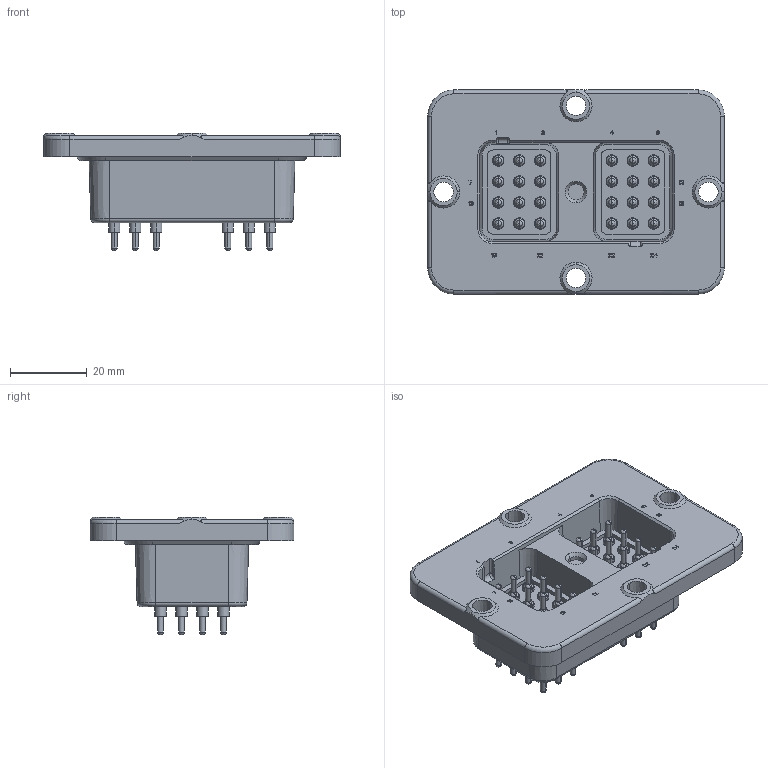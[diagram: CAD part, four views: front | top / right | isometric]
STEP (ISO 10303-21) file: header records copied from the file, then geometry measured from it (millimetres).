
FILE_DESCRIPTION((''),'2;1');
FILE_NAME('C-DRC10-24PA-A004','2013-06-01T',('workeradm'),('Tyco Electronics Ltd.'),'PRO/ENGINEER BY PARAMETRIC TECHNOLOGY CORPORATION, 2011490','PRO/ENGINEER BY PARAMETRIC TECHNOLOGY CORPORATION, 2011490','');
FILE_SCHEMA(('AUTOMOTIVE_DESIGN { 1 0 10303 214 1 1 1 1 }'));
Length unit declared in the file: millimetre
Products named in the file (1): C-DRC10-24PA-A004
Bounding box: 77.47 x 53.29 x 30.73 mm (x, y, z)
Volume: 38594.1 mm3; surface area: 16409.9 mm2
Topology: 1 solids, 1 shells, 1226 faces, 3015 edges, 1896 vertices
Faces by surface type: plane 684, cylinder 240, torus 164, bspline 96, cone 42
Entity records: 38877 total; most frequent: CARTESIAN_POINT 9183, DIRECTION 6249, ORIENTED_EDGE 6030, EDGE_CURVE 3015, AXIS2_PLACEMENT_3D 2132, VECTOR 1985, LINE 1985, VERTEX_POINT 1896
